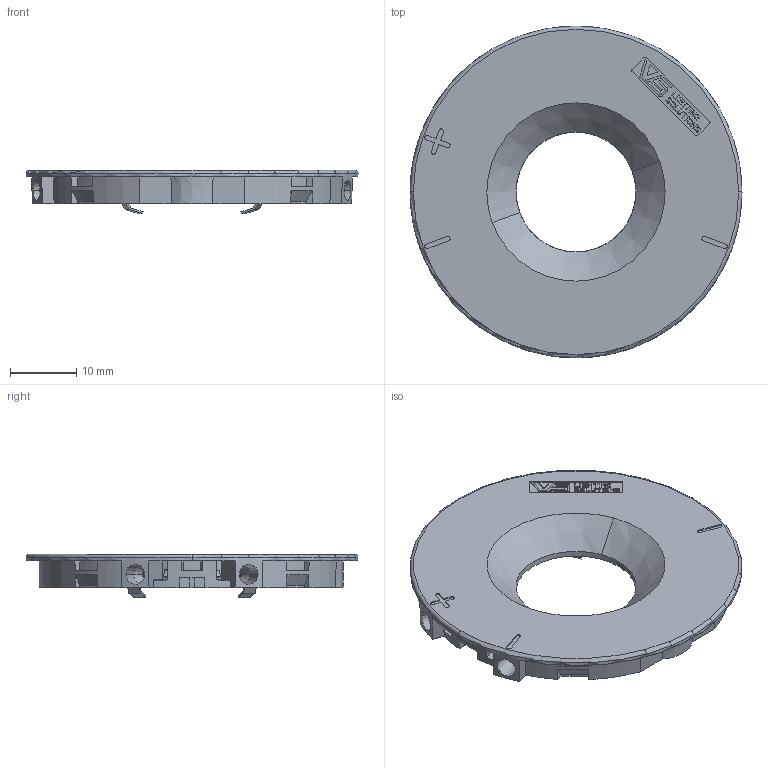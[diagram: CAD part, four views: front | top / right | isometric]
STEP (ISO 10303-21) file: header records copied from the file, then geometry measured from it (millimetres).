
FILE_DESCRIPTION(('Creo Elements/Direct Modeling STEP Export'),'2;1');
FILE_NAME('cd_89731.stp','2019-08-06T 8:57:50',(''),(''),'Creo Elements/Direct Modeling STEP processor for AP214 (Solid Model)','Creo Elements/Direct Modeling 20.0D 25-Aug-2018 (C) Parametric Technology GmbH','');
FILE_SCHEMA(('AUTOMOTIVE_DESIGN { 1 0 10303 214 1 1 1 1 }'));
Length unit declared in the file: millimetre
Products named in the file (2): cd_89731_564170
Assembly tree (1 placements, depth 2):
  cd_89731_564170
    cd_89731_564170
Bounding box: 49.98 x 49.98 x 6.52 mm (x, y, z)
Volume: 3412.3 mm3; surface area: 6599 mm2
Topology: 1 solids, 1 shells, 956 faces, 2762 edges, 1836 vertices
Faces by surface type: plane 824, cylinder 74, cone 52, revolution 4, torus 2
Entity records: 36268 total; most frequent: CARTESIAN_POINT 9906, ORIENTED_EDGE 5524, DIRECTION 4743, EDGE_CURVE 2762, VECTOR 2355, LINE 2355, VERTEX_POINT 1836, AXIS2_PLACEMENT_3D 1192
